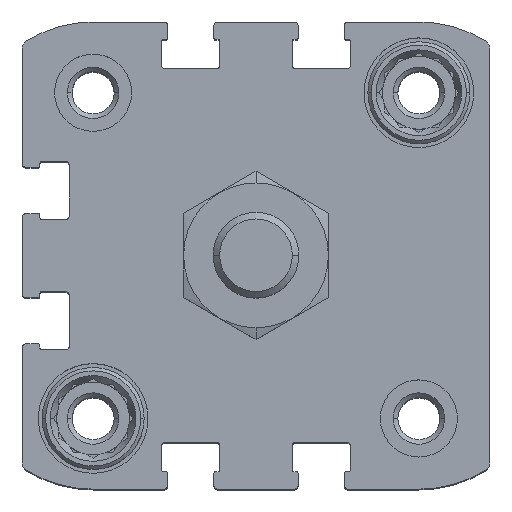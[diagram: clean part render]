
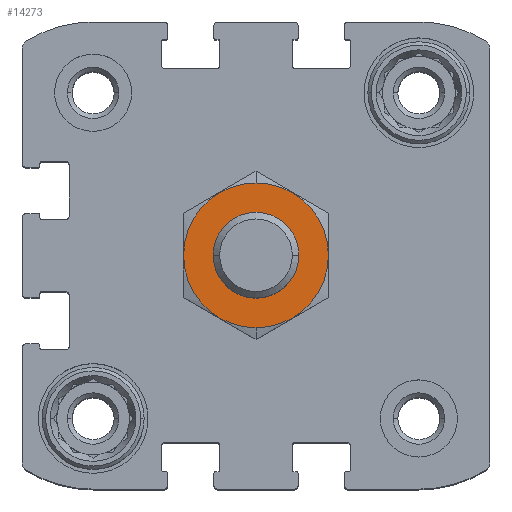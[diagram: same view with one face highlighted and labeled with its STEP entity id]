
A CAD part, top view. The second image highlights one B-rep face of the part: STEP entity #14273.
In plain terms, the highlighted planar face has unit normal (0, 0, 1).
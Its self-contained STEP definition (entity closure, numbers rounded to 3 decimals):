
#80 = CIRCLE ( 'NONE', #12139, 8.45 ) ;
#554 = CIRCLE ( 'NONE', #13161, 5. ) ;
#1710 = CARTESIAN_POINT ( 'NONE',  ( 0., -8.45, 15.8 ) ) ;
#1767 = DIRECTION ( 'NONE',  ( 0., 0., -1. ) ) ;
#2373 = CARTESIAN_POINT ( 'NONE',  ( 0., 0., 15.8 ) ) ;
#3321 = ORIENTED_EDGE ( 'NONE', *, *, #8475, .T. ) ;
#4582 = EDGE_CURVE ( 'NONE', #14278, #16571, #80, .T. ) ;
#5091 = FACE_BOUND ( 'NONE', #12954, .T. ) ;
#5790 = DIRECTION ( 'NONE',  ( 0., 1., 0. ) ) ;
#6406 = DIRECTION ( 'NONE',  ( 0., 1., 0. ) ) ;
#6789 = CARTESIAN_POINT ( 'NONE',  ( 0., 0., 15.8 ) ) ;
#6927 = DIRECTION ( 'NONE',  ( 0., 0., -1. ) ) ;
#7776 = ORIENTED_EDGE ( 'NONE', *, *, #16301, .F. ) ;
#7977 = DIRECTION ( 'NONE',  ( 0., 0., -1. ) ) ;
#8178 = AXIS2_PLACEMENT_3D ( 'NONE', #2373, #7977, #6406 ) ;
#8475 = EDGE_CURVE ( 'NONE', #14246, #9105, #13109, .T. ) ;
#9041 = ORIENTED_EDGE ( 'NONE', *, *, #16964, .T. ) ;
#9105 = VERTEX_POINT ( 'NONE', #10179 ) ;
#9654 = EDGE_LOOP ( 'NONE', ( #11822, #7776 ) ) ;
#9762 = CIRCLE ( 'NONE', #15387, 8.45 ) ;
#10179 = CARTESIAN_POINT ( 'NONE',  ( 0., -5., 15.8 ) ) ;
#11633 = DIRECTION ( 'NONE',  ( 0., 0., -1. ) ) ;
#11724 = CARTESIAN_POINT ( 'NONE',  ( 0., 0., 15.8 ) ) ;
#11822 = ORIENTED_EDGE ( 'NONE', *, *, #4582, .F. ) ;
#11974 = DIRECTION ( 'NONE',  ( 0., 1., 0. ) ) ;
#12098 = FACE_OUTER_BOUND ( 'NONE', #9654, .T. ) ;
#12139 = AXIS2_PLACEMENT_3D ( 'NONE', #15371, #1767, #16676 ) ;
#12251 = AXIS2_PLACEMENT_3D ( 'NONE', #6789, #13551, #11974 ) ;
#12954 = EDGE_LOOP ( 'NONE', ( #9041, #3321 ) ) ;
#13109 = CIRCLE ( 'NONE', #12251, 5. ) ;
#13161 = AXIS2_PLACEMENT_3D ( 'NONE', #15181, #6927, #5790 ) ;
#13551 = DIRECTION ( 'NONE',  ( 0., 0., -1. ) ) ;
#14246 = VERTEX_POINT ( 'NONE', #14569 ) ;
#14273 = ADVANCED_FACE ( 'NONE', ( #12098, #5091 ), #15882, .F. ) ;
#14278 = VERTEX_POINT ( 'NONE', #17369 ) ;
#14569 = CARTESIAN_POINT ( 'NONE',  ( 0., 5., 15.8 ) ) ;
#15181 = CARTESIAN_POINT ( 'NONE',  ( 0., 0., 15.8 ) ) ;
#15371 = CARTESIAN_POINT ( 'NONE',  ( 0., 0., 15.8 ) ) ;
#15387 = AXIS2_PLACEMENT_3D ( 'NONE', #11724, #11633, #16983 ) ;
#15882 = PLANE ( 'NONE',  #8178 ) ;
#16301 = EDGE_CURVE ( 'NONE', #16571, #14278, #9762, .T. ) ;
#16571 = VERTEX_POINT ( 'NONE', #1710 ) ;
#16676 = DIRECTION ( 'NONE',  ( 0., 1., 0. ) ) ;
#16964 = EDGE_CURVE ( 'NONE', #9105, #14246, #554, .T. ) ;
#16983 = DIRECTION ( 'NONE',  ( 0., 1., 0. ) ) ;
#17369 = CARTESIAN_POINT ( 'NONE',  ( 0., 8.45, 15.8 ) ) ;
